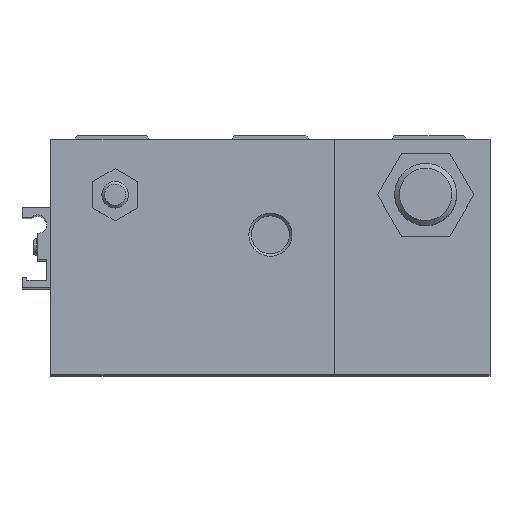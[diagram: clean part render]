
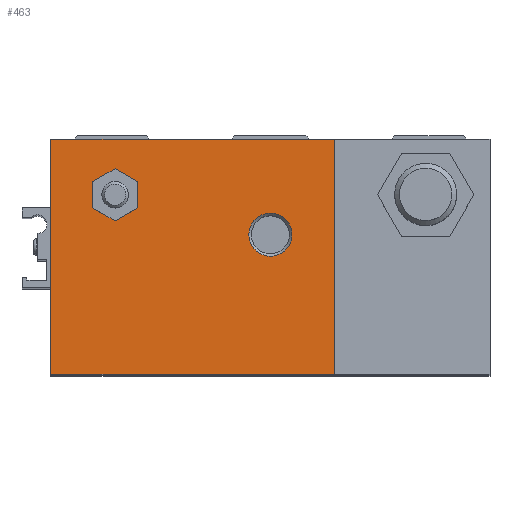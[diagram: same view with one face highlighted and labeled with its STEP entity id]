
A CAD part, top view. The second image highlights one B-rep face of the part: STEP entity #463.
In plain terms, the highlighted planar face has unit normal (0, 0, 1) as drawn and (0, 0, -1) by its records, which use the part's own axes.
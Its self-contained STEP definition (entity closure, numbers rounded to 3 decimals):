
#463 = ADVANCED_FACE( '', ( #1047, #1048, #1049 ), #1050, .F. );
#1047 = FACE_BOUND( '', #1751, .T. );
#1048 = FACE_BOUND( '', #1752, .T. );
#1049 = FACE_OUTER_BOUND( '', #1753, .T. );
#1050 = PLANE( '', #1754 );
#1751 = EDGE_LOOP( '', ( #2813, #2814, #2815, #2816, #2817, #2818 ) );
#1752 = EDGE_LOOP( '', ( #2819 ) );
#1753 = EDGE_LOOP( '', ( #2820, #2821, #2822, #2823 ) );
#1754 = AXIS2_PLACEMENT_3D( '', #2824, #2825, #2826 );
#2813 = ORIENTED_EDGE( '', *, *, #3781, .T. );
#2814 = ORIENTED_EDGE( '', *, *, #3782, .T. );
#2815 = ORIENTED_EDGE( '', *, *, #3778, .T. );
#2816 = ORIENTED_EDGE( '', *, *, #3706, .T. );
#2817 = ORIENTED_EDGE( '', *, *, #3465, .T. );
#2818 = ORIENTED_EDGE( '', *, *, #3650, .T. );
#2819 = ORIENTED_EDGE( '', *, *, #3693, .T. );
#2820 = ORIENTED_EDGE( '', *, *, #3717, .T. );
#2821 = ORIENTED_EDGE( '', *, *, #3432, .F. );
#2822 = ORIENTED_EDGE( '', *, *, #3783, .F. );
#2823 = ORIENTED_EDGE( '', *, *, #3784, .T. );
#2824 = CARTESIAN_POINT( '', ( 14.5, 53., -194.5 ) );
#2825 = DIRECTION( '', ( 0., 0., 1. ) );
#2826 = DIRECTION( '', ( 1., 0., 0. ) );
#3432 = EDGE_CURVE( '', #3928, #3930, #3931, .T. );
#3465 = EDGE_CURVE( '', #3985, #3986, #3987, .T. );
#3650 = EDGE_CURVE( '', #3986, #4295, #4296, .T. );
#3693 = EDGE_CURVE( '', #4362, #4362, #4363, .T. );
#3706 = EDGE_CURVE( '', #4381, #3985, #4382, .T. );
#3717 = EDGE_CURVE( '', #4397, #3930, #4398, .T. );
#3778 = EDGE_CURVE( '', #4485, #4381, #4486, .T. );
#3781 = EDGE_CURVE( '', #4295, #4489, #4490, .T. );
#3782 = EDGE_CURVE( '', #4489, #4485, #4491, .T. );
#3783 = EDGE_CURVE( '', #4492, #3928, #4493, .T. );
#3784 = EDGE_CURVE( '', #4492, #4397, #4494, .T. );
#3928 = VERTEX_POINT( '', #4669 );
#3930 = VERTEX_POINT( '', #4672 );
#3931 = LINE( '', #4673, #4674 );
#3985 = VERTEX_POINT( '', #4738 );
#3986 = VERTEX_POINT( '', #4739 );
#3987 = LINE( '', #4740, #4741 );
#4295 = VERTEX_POINT( '', #5137 );
#4296 = LINE( '', #5138, #5139 );
#4362 = VERTEX_POINT( '', #5217 );
#4363 = CIRCLE( '', #5218, 4.864 );
#4381 = VERTEX_POINT( '', #5241 );
#4382 = LINE( '', #5242, #5243 );
#4397 = VERTEX_POINT( '', #5261 );
#4398 = LINE( '', #5262, #5263 );
#4485 = VERTEX_POINT( '', #5370 );
#4486 = LINE( '', #5371, #5372 );
#4489 = VERTEX_POINT( '', #5376 );
#4490 = LINE( '', #5377, #5378 );
#4491 = LINE( '', #5379, #5380 );
#4492 = VERTEX_POINT( '', #5381 );
#4493 = LINE( '', #5382, #5383 );
#4494 = LINE( '', #5384, #5385 );
#4669 = CARTESIAN_POINT( '', ( -49.5, 53., -194.5 ) );
#4672 = CARTESIAN_POINT( '', ( -49.5, 0., -194.5 ) );
#4673 = CARTESIAN_POINT( '', ( -49.5, 53., -194.5 ) );
#4674 = VECTOR( '', #5576, 1000. );
#4738 = CARTESIAN_POINT( '', ( -29.9, 9.556, -194.5 ) );
#4739 = CARTESIAN_POINT( '', ( -29.9, 15.444, -194.5 ) );
#4740 = CARTESIAN_POINT( '', ( -29.9, 53., -194.5 ) );
#4741 = VECTOR( '', #5623, 1000. );
#5137 = CARTESIAN_POINT( '', ( -35., 18.389, -194.5 ) );
#5138 = CARTESIAN_POINT( '', ( -12.862, 5.608, -194.5 ) );
#5139 = VECTOR( '', #5871, 1000. );
#5217 = CARTESIAN_POINT( '', ( 4.864, 21.5, -194.5 ) );
#5218 = AXIS2_PLACEMENT_3D( '', #5938, #5939, #5940 );
#5241 = CARTESIAN_POINT( '', ( -35., 6.611, -194.5 ) );
#5242 = CARTESIAN_POINT( '', ( 22.212, 39.642, -194.5 ) );
#5243 = VECTOR( '', #5952, 1000. );
#5261 = CARTESIAN_POINT( '', ( 14.5, 0., -194.5 ) );
#5262 = CARTESIAN_POINT( '', ( 14.5, 0., -194.5 ) );
#5263 = VECTOR( '', #5965, 1000. );
#5370 = CARTESIAN_POINT( '', ( -40.1, 9.556, -194.5 ) );
#5371 = CARTESIAN_POINT( '', ( -17.962, -3.226, -194.5 ) );
#5372 = VECTOR( '', #6040, 1000. );
#5376 = CARTESIAN_POINT( '', ( -40.1, 15.444, -194.5 ) );
#5377 = CARTESIAN_POINT( '', ( 17.112, 48.476, -194.5 ) );
#5378 = VECTOR( '', #6042, 1000. );
#5379 = CARTESIAN_POINT( '', ( -40.1, 53., -194.5 ) );
#5380 = VECTOR( '', #6043, 1000. );
#5381 = CARTESIAN_POINT( '', ( 14.5, 53., -194.5 ) );
#5382 = CARTESIAN_POINT( '', ( 14.5, 53., -194.5 ) );
#5383 = VECTOR( '', #6044, 1000. );
#5384 = CARTESIAN_POINT( '', ( 14.5, 53., -194.5 ) );
#5385 = VECTOR( '', #6045, 1000. );
#5576 = DIRECTION( '', ( 0., -1., 0. ) );
#5623 = DIRECTION( '', ( 0., 1., 0. ) );
#5871 = DIRECTION( '', ( -0.866, 0.5, 0. ) );
#5938 = CARTESIAN_POINT( '', ( 0., 21.5, -194.5 ) );
#5939 = DIRECTION( '', ( 0., 0., 1. ) );
#5940 = DIRECTION( '', ( 1., 0., 0. ) );
#5952 = DIRECTION( '', ( 0.866, 0.5, 0. ) );
#5965 = DIRECTION( '', ( -1., 0., 0. ) );
#6040 = DIRECTION( '', ( 0.866, -0.5, 0. ) );
#6042 = DIRECTION( '', ( -0.866, -0.5, 0. ) );
#6043 = DIRECTION( '', ( 0., -1., 0. ) );
#6044 = DIRECTION( '', ( -1., 0., 0. ) );
#6045 = DIRECTION( '', ( 0., -1., 0. ) );
